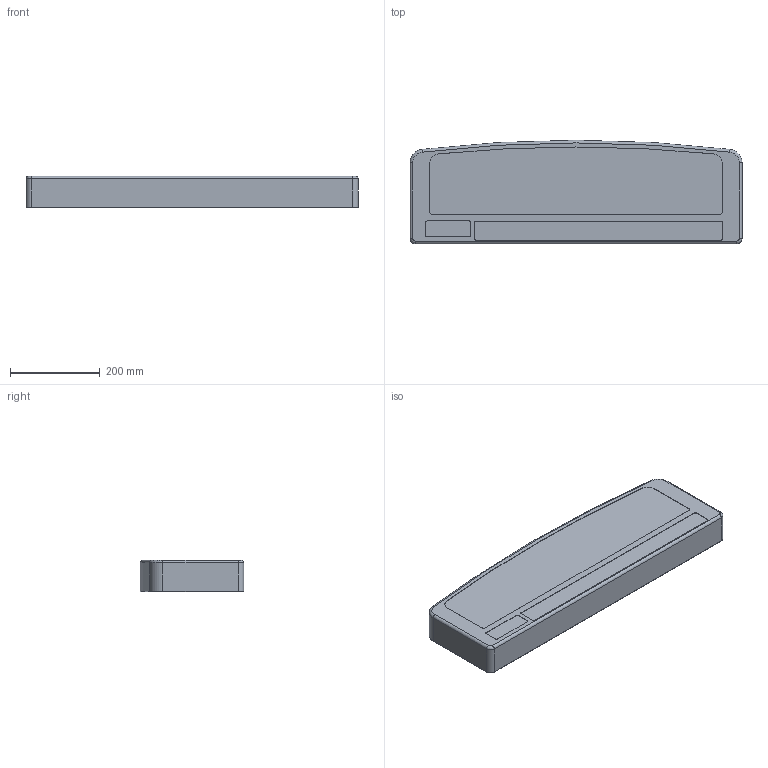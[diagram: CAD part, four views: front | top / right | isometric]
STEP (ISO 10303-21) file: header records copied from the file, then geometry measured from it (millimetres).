
FILE_DESCRIPTION(('Open CASCADE Model'),'2;1');
FILE_NAME('Open CASCADE Shape Model','2026-09-26T16:24:15',('Author'),( 'Open CASCADE'),'Open CASCADE STEP processor 7.9','Open CASCADE 7.9' ,'Unknown');
FILE_SCHEMA(('AUTOMOTIVE_DESIGN { 1 0 10303 214 1 1 1 1 }'));
Length unit declared in the file: millimetre
Products named in the file (1): Open CASCADE STEP translator 7.9 7
Bounding box: 738 x 230 x 70 mm (x, y, z)
Volume: 11314239.1 mm3; surface area: 454393.4 mm2
Topology: 1 solids, 1 shells, 53 faces, 128 edges, 80 vertices
Faces by surface type: cylinder 24, plane 19, torus 8, revolution 2
Entity records: 3221 total; most frequent: CARTESIAN_POINT 638, DIRECTION 491, ORIENTED_EDGE 256, PCURVE 256, DEFINITIONAL_REPRESENTATION 256, LINE 232, VECTOR 232, EDGE_CURVE 128
